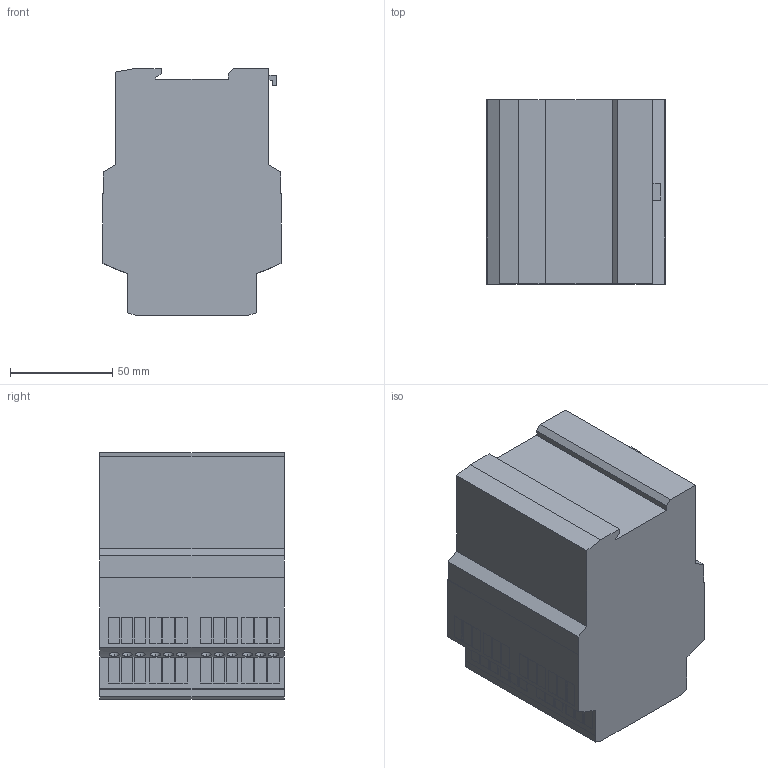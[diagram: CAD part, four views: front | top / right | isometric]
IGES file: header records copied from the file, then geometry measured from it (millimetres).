
Start section:  PTC IGES file: 2008117
Global section: file name: 2008117; native system: Pro/ENGINEER by Parametric Technology Corporation; preprocessor: 2009380; author: merz; organization: Unknown; date: 20101116.112931; units: millimetre
Bounding box: 87 x 90 x 120.6 mm (x, y, z)
Surface area: 56468.2 mm2 (no closed solid volume)
Topology: 0 solids, 0 shells, 458 faces, 2172 edges, 2172 vertices
Faces by surface type: bspline 356, revolution 102
